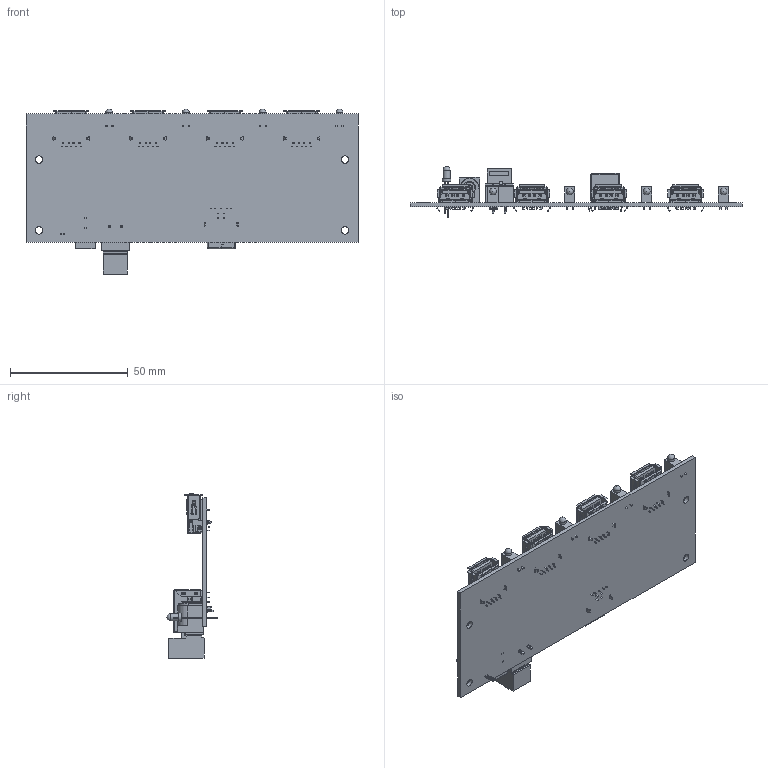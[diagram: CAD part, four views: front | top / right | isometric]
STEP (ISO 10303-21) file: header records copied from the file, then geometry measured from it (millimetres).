
FILE_DESCRIPTION(/* description */ (''),/* implementation_level */ '2;1');
FILE_NAME(/* name */ 'C:/Users/Leo Pinto/Documents/Fusion 360/AA PCBAs/USBG-3X4mr2-PCBA/USBG-3X4mr2-PCBA Model3D LPv1.step',/* time_stamp */ '2022-07-12T15:21:57-04:00',/* author */ (''),/* organization */ (''),/* preprocessor_version */ 'ST-DEVELOPER v19',/* originating_system */ 'Autodesk Translation Framework v11.7.0.108',/* authorisation */ '');
FILE_SCHEMA (('AUTOMOTIVE_DESIGN { 1 0 10303 214 3 1 1 }'));
Products named in the file (50): USBG-3X4mr2-PCBA; Component1; LED 1 Block mounting pcb v2; Connector Volts Black plastic v2; Component1 (1); Component2; Component3 (1); Component4 (1); Connector green Phoenix 2 holes female 5.08 v1; LED 3mm v4 (1); 3mm_LED (1); led_energy (1) (1); led_energy (2); led_pin.1.1.1 (1) (1); led_pin.1.1.1 (2); led_pin.2.1 (1) (1); led_pin.2.1 (2); Connector green phoenix 2pines male 5.08 v6; Component51; LED 1 Block mounting pcb v2_1; LED 1 Block mounting pcb v2_2; LED 1 Block mounting pcb v2_3; User_Library-Led_3mm_Dialight_mod__551-1107F; USB type B Second Gen Blue.2Gen1 v2; Housing1; Housing2; shielding (1); shielding_2; Housing3; pin3; pin4; pin5; pin3_mir2; pin4_mir2; pin1 (1); pin2 (1); USB Type A Single Blue v1; Download_STP_692121030100_(rev1) (1); USB Type A Single Blue v1_1; Download_STP_692121030100_(rev1) (1)_1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
Assembly tree (96 placements, depth 5):
  USBG-3X4mr2-PCBA
    Component1
    LED 1 Block mounting pcb v2
      User_Library-Led_3mm_Dialight_mod__551-1107F
    Connector Volts Black plastic v2
      Component1 (1)
      Component2
      Component3 (1)
      Component4 (1)
    Connector green Phoenix 2 holes female 5.08 v1
    LED 3mm v4 (1)
      3mm_LED (1)
        led_energy (1) (1)
          led_energy (2)
        led_pin.1.1.1 (1) (1)
          led_pin.1.1.1 (2)
        led_pin.2.1 (1) (1)
          led_pin.2.1 (2)
    Connector green phoenix 2pines male 5.08 v6
    Component51
    LED 1 Block mounting pcb v2_1
      User_Library-Led_3mm_Dialight_mod__551-1107F
    LED 1 Block mounting pcb v2_2
      User_Library-Led_3mm_Dialight_mod__551-1107F
    LED 1 Block mounting pcb v2_3
      User_Library-Led_3mm_Dialight_mod__551-1107F
    USB type B Second Gen Blue.2Gen1 v2
      Housing1
      Housing2
      pin1 (1)  x2
      shielding (1)
      pin2 (1)  x2
      shielding_2
      Housing3
      pin3
      pin4
      pin5
      pin3_mir2
      pin4_mir2
    USB Type A Single Blue v1
      Download_STP_692121030100_(rev1) (1)
        housing1 (1)
        pin1 (2)  x5
        housing2 (1)
        pin2 (2)  x2
        pin (1)  x2
        shielding (2)
    USB Type A Single Blue v1_1
      Download_STP_692121030100_(rev1) (1)_1
        housing1 (1)
        pin1 (2)  x5
        housing2 (1)
        pin2 (2)  x2
        pin (1)  x2
        shielding (2)
    USB Type A Single Blue v1_2
      Download_STP_692121030100_(rev1) (1)_2
        housing1 (1)
        pin1 (2)  x5
        housing2 (1)
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Bounding box: 141.18 x 21.58 x 70.38 mm (x, y, z)
Volume: 21182.6 mm3; surface area: 38619.6 mm2
Topology: 76 solids, 76 shells, 5949 faces, 16627 edges, 10790 vertices
Faces by surface type: plane 4560, cylinder 1328, bspline 31, cone 17, sphere 11, torus 2
Full cylindrical faces by diameter (mm): 1 x4, 1.6 x2, 1.679 x1, 2.16 x1, 2.89 x4, 2.998 x1, 3.2 x4, 3.54 x1, 3.643 x1, 3.86 x2, 5.04 x2, 5.2 x4, 6 x1
Entity records: 74273 total; most frequent: CARTESIAN_POINT 13217, ORIENTED_EDGE 12394, DIRECTION 11856, EDGE_CURVE 6197, LINE 5176, VECTOR 5176, VERTEX_POINT 4038, AXIS2_PLACEMENT_3D 3340
